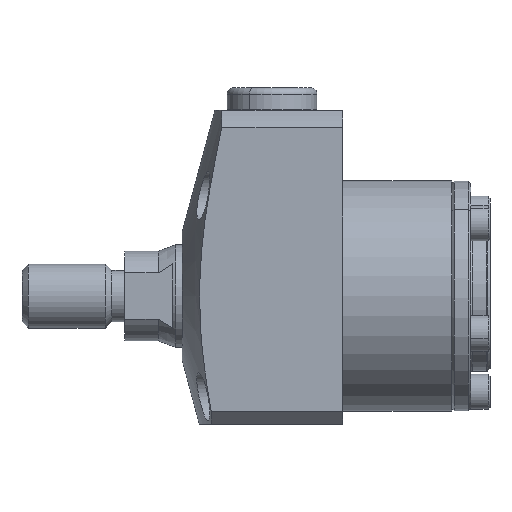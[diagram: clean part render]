
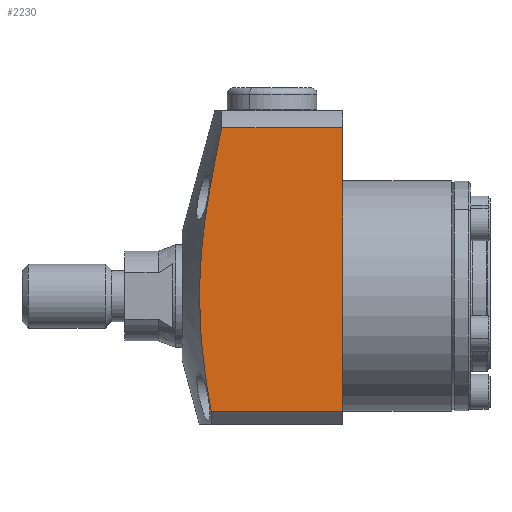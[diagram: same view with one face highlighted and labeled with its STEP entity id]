
A CAD part, left-side view. The second image highlights one B-rep face of the part: STEP entity #2230.
In plain terms, the highlighted planar face has unit normal (-1, 0, 0).
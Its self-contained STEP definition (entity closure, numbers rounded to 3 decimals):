
#500 = ORIENTED_EDGE ( 'NONE', *, *, #4263, .F. ) ;
#501 = ORIENTED_EDGE ( 'NONE', *, *, #4274, .T. ) ;
#502 = ORIENTED_EDGE ( 'NONE', *, *, #4275, .F. ) ;
#503 = ORIENTED_EDGE ( 'NONE', *, *, #4276, .T. ) ;
#1444 = VERTEX_POINT ( 'NONE', #4767 ) ;
#1445 = VERTEX_POINT ( 'NONE', #4768 ) ;
#1446 = VERTEX_POINT ( 'NONE', #4769 ) ;
#1448 = VERTEX_POINT ( 'NONE', #4771 ) ;
#2119 = EDGE_LOOP ( 'NONE', ( #500, #501, #502, #503 ) ) ;
#2230 = ADVANCED_FACE ( 'NONE', ( #2659 ), #2660, .F. ) ;
#2638 = AXIS2_PLACEMENT_3D ( 'NONE', #2650, #2662, #2663 ) ;
#2650 = CARTESIAN_POINT ( 'NONE',  ( -20., 25., 29. ) ) ;
#2659 = FACE_OUTER_BOUND ( 'NONE', #2119, .T. ) ;
#2660 = PLANE ( 'NONE',  #2638 ) ;
#2662 = DIRECTION ( 'NONE',  ( 1., 0., 0. ) ) ;
#2663 = DIRECTION ( 'NONE',  ( 0., 0., -1. ) ) ;
#3649 = CARTESIAN_POINT ( 'NONE',  ( -20., 20.47, -18. ) ) ;
#3653 = CARTESIAN_POINT ( 'NONE',  ( -20., 20.799, -16.163 ) ) ;
#3657 = CARTESIAN_POINT ( 'NONE',  ( -20., 21.102, -14.319 ) ) ;
#3658 = CARTESIAN_POINT ( 'NONE',  ( -20., 21.625, -10.63 ) ) ;
#3659 = CARTESIAN_POINT ( 'NONE',  ( -20., 21.845, -8.784 ) ) ;
#3660 = CARTESIAN_POINT ( 'NONE',  ( -20., 22.169, -5.091 ) ) ;
#3661 = CARTESIAN_POINT ( 'NONE',  ( -20., 22.273, -3.242 ) ) ;
#3662 = CARTESIAN_POINT ( 'NONE',  ( -20., 22.342, 0.457 ) ) ;
#3663 = CARTESIAN_POINT ( 'NONE',  ( -20., 22.307, 2.309 ) ) ;
#3664 = CARTESIAN_POINT ( 'NONE',  ( -20., 22.105, 6.015 ) ) ;
#3665 = CARTESIAN_POINT ( 'NONE',  ( -20., 21.938, 7.87 ) ) ;
#3666 = CARTESIAN_POINT ( 'NONE',  ( -20., 21.612, 10.654 ) ) ;
#3667 = CARTESIAN_POINT ( 'NONE',  ( -20., 21.49, 11.582 ) ) ;
#3668 = CARTESIAN_POINT ( 'NONE',  ( -20., 21.228, 13.432 ) ) ;
#3669 = CARTESIAN_POINT ( 'NONE',  ( -20., 21.086, 14.354 ) ) ;
#3670 = CARTESIAN_POINT ( 'NONE',  ( -20., 20.637, 17.116 ) ) ;
#3671 = CARTESIAN_POINT ( 'NONE',  ( -20., 20.305, 18.949 ) ) ;
#3672 = CARTESIAN_POINT ( 'NONE',  ( -20., 19.599, 22.605 ) ) ;
#3673 = CARTESIAN_POINT ( 'NONE',  ( -20., 19.225, 24.429 ) ) ;
#3674 = CARTESIAN_POINT ( 'NONE',  ( -20., 18.837, 26.249 ) ) ;
#3931 = VECTOR ( 'NONE', #5014, 1000. ) ;
#3932 = VECTOR ( 'NONE', #5016, 1000. ) ;
#3934 = VECTOR ( 'NONE', #5019, 1000. ) ;
#4124 = B_SPLINE_CURVE_WITH_KNOTS ( 'NONE', 3,
 ( #3649, #3653, #3657, #3658, #3659, #3660, #3661, #3662, #3663, #3664, #3665, #3666, #3667, #3668, #3669, #3670, #3671, #3672, #3673, #3674 ),
 .UNSPECIFIED., .F., .F.,
 ( 4, 2, 2, 2, 2, 2, 2, 2, 2, 4 ),
 ( 0.022, 0.028, 0.033, 0.039, 0.045, 0.05, 0.053, 0.056, 0.061, 0.067 ),
 .UNSPECIFIED. ) ;
#4263 = EDGE_CURVE ( 'NONE', #1444, #1445, #4124, .T. ) ;
#4274 = EDGE_CURVE ( 'NONE', #1444, #1446, #4997, .T. ) ;
#4275 = EDGE_CURVE ( 'NONE', #1448, #1446, #5008, .T. ) ;
#4276 = EDGE_CURVE ( 'NONE', #1448, #1445, #5017, .T. ) ;
#4767 = CARTESIAN_POINT ( 'NONE',  ( -20., 20.47, -18. ) ) ;
#4768 = CARTESIAN_POINT ( 'NONE',  ( -20., 18.837, 26.249 ) ) ;
#4769 = CARTESIAN_POINT ( 'NONE',  ( -20., 0., -18. ) ) ;
#4771 = CARTESIAN_POINT ( 'NONE',  ( -20., 0., 26.249 ) ) ;
#4997 = LINE ( 'NONE', #5013, #3931 ) ;
#5008 = LINE ( 'NONE', #5015, #3932 ) ;
#5013 = CARTESIAN_POINT ( 'NONE',  ( -20., 25., -18. ) ) ;
#5014 = DIRECTION ( 'NONE',  ( 0., -1., 0. ) ) ;
#5015 = CARTESIAN_POINT ( 'NONE',  ( -20., 0., -20. ) ) ;
#5016 = DIRECTION ( 'NONE',  ( 0., 0., -1. ) ) ;
#5017 = LINE ( 'NONE', #5018, #3934 ) ;
#5018 = CARTESIAN_POINT ( 'NONE',  ( -20., 0., 26.249 ) ) ;
#5019 = DIRECTION ( 'NONE',  ( 0., 1., 0. ) ) ;
